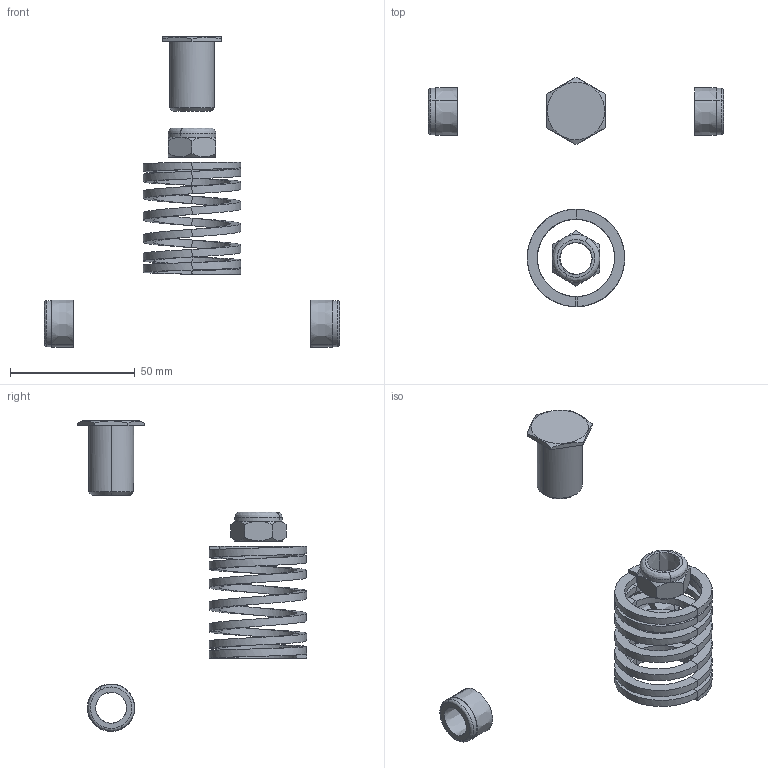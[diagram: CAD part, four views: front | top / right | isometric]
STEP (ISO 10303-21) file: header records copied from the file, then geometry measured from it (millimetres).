
FILE_DESCRIPTION (( 'STEP AP214' ), '1' );
FILE_NAME ('KTU-150WJ-GS-50.STEP', '2018-08-30T06:57:49', ( '' ), ( '' ), 'SwSTEP 2.0', 'SolidWorks 2010', '' );
FILE_SCHEMA (( 'AUTOMOTIVE_DESIGN' ));
Length unit declared in the file: millimetre
Products named in the file (1): KTU-150WJ-GS-50
Bounding box: 118.2 x 91.76 x 124.5 mm (x, y, z)
Volume: 23208.4 mm3; surface area: 18397 mm2
Topology: 5 solids, 5 shells, 119 faces, 375 edges, 269 vertices
Faces by surface type: bspline 92, plane 27
Entity records: 23374 total; most frequent: CARTESIAN_POINT 20184, ORIENTED_EDGE 750, EDGE_CURVE 375, B_SPLINE_CURVE_WITH_KNOTS 301, VERTEX_POINT 269, DIRECTION 130, EDGE_LOOP 128, FACE_OUTER_BOUND 119
